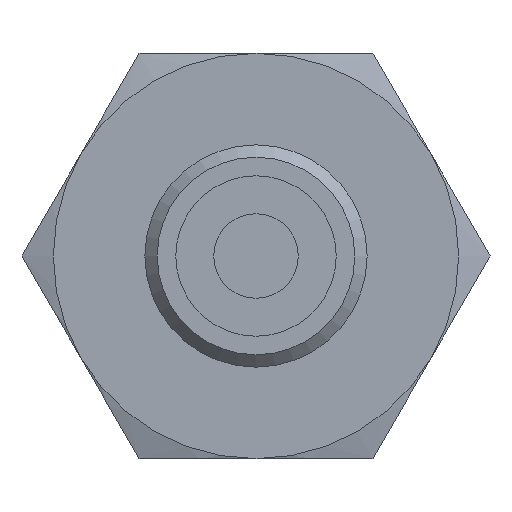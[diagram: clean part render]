
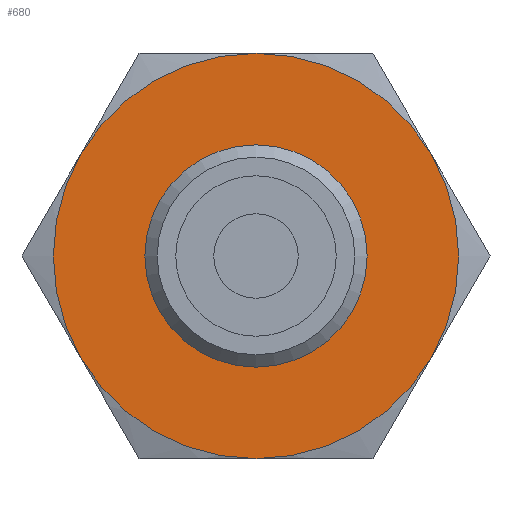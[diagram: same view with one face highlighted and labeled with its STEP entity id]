
A CAD part, left-side view. The second image highlights one B-rep face of the part: STEP entity #680.
In plain terms, the highlighted planar face has unit normal (-1, 0, 0).
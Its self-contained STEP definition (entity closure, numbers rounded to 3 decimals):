
#62=FACE_BOUND('',#184,.T.);
#135=FACE_OUTER_BOUND('',#183,.T.);
#183=EDGE_LOOP('',(#499,#500,#501,#502,#503,#504));
#184=EDGE_LOOP('',(#505));
#248=CIRCLE('',#782,6.4);
#249=CIRCLE('',#784,12.);
#250=CIRCLE('',#785,12.);
#251=CIRCLE('',#786,12.);
#252=CIRCLE('',#787,12.);
#253=CIRCLE('',#788,12.);
#254=CIRCLE('',#789,12.);
#293=VERTEX_POINT('',#1131);
#294=VERTEX_POINT('',#1135);
#295=VERTEX_POINT('',#1136);
#296=VERTEX_POINT('',#1138);
#297=VERTEX_POINT('',#1140);
#298=VERTEX_POINT('',#1142);
#299=VERTEX_POINT('',#1144);
#365=EDGE_CURVE('',#293,#293,#248,.T.);
#366=EDGE_CURVE('',#294,#295,#249,.T.);
#367=EDGE_CURVE('',#295,#296,#250,.T.);
#368=EDGE_CURVE('',#296,#297,#251,.T.);
#369=EDGE_CURVE('',#297,#298,#252,.T.);
#370=EDGE_CURVE('',#298,#299,#253,.T.);
#371=EDGE_CURVE('',#299,#294,#254,.T.);
#499=ORIENTED_EDGE('',*,*,#366,.T.);
#500=ORIENTED_EDGE('',*,*,#367,.T.);
#501=ORIENTED_EDGE('',*,*,#368,.T.);
#502=ORIENTED_EDGE('',*,*,#369,.T.);
#503=ORIENTED_EDGE('',*,*,#370,.T.);
#504=ORIENTED_EDGE('',*,*,#371,.T.);
#505=ORIENTED_EDGE('',*,*,#365,.F.);
#605=PLANE('',#783);
#680=ADVANCED_FACE('',(#135,#62),#605,.T.);
#782=AXIS2_PLACEMENT_3D('',#1133,#946,#947);
#783=AXIS2_PLACEMENT_3D('',#1134,#948,#949);
#784=AXIS2_PLACEMENT_3D('',#1137,#950,#951);
#785=AXIS2_PLACEMENT_3D('',#1139,#952,#953);
#786=AXIS2_PLACEMENT_3D('',#1141,#954,#955);
#787=AXIS2_PLACEMENT_3D('',#1143,#956,#957);
#788=AXIS2_PLACEMENT_3D('',#1145,#958,#959);
#789=AXIS2_PLACEMENT_3D('',#1146,#960,#961);
#946=DIRECTION('center_axis',(-1.,0.,0.));
#947=DIRECTION('ref_axis',(0.,1.,0.));
#948=DIRECTION('center_axis',(-1.,0.,0.));
#949=DIRECTION('ref_axis',(0.,0.,-1.));
#950=DIRECTION('center_axis',(-1.,0.,0.));
#951=DIRECTION('ref_axis',(0.,-1.,0.));
#952=DIRECTION('center_axis',(-1.,0.,0.));
#953=DIRECTION('ref_axis',(0.,-1.,0.));
#954=DIRECTION('center_axis',(-1.,0.,0.));
#955=DIRECTION('ref_axis',(0.,-1.,0.));
#956=DIRECTION('center_axis',(-1.,0.,0.));
#957=DIRECTION('ref_axis',(0.,-1.,0.));
#958=DIRECTION('center_axis',(-1.,0.,0.));
#959=DIRECTION('ref_axis',(0.,-1.,0.));
#960=DIRECTION('center_axis',(-1.,0.,0.));
#961=DIRECTION('ref_axis',(0.,-1.,0.));
#1131=CARTESIAN_POINT('',(-11.,0.,-6.4));
#1133=CARTESIAN_POINT('Origin',(-11.,0.,0.));
#1134=CARTESIAN_POINT('Origin',(-11.,0.,0.));
#1135=CARTESIAN_POINT('',(-11.,-10.392,-6.));
#1136=CARTESIAN_POINT('',(-11.,-10.392,6.));
#1137=CARTESIAN_POINT('Origin',(-11.,0.,0.));
#1138=CARTESIAN_POINT('',(-11.,0.,12.));
#1139=CARTESIAN_POINT('Origin',(-11.,0.,0.));
#1140=CARTESIAN_POINT('',(-11.,10.392,6.));
#1141=CARTESIAN_POINT('Origin',(-11.,0.,0.));
#1142=CARTESIAN_POINT('',(-11.,10.392,-6.));
#1143=CARTESIAN_POINT('Origin',(-11.,0.,0.));
#1144=CARTESIAN_POINT('',(-11.,0.,-12.));
#1145=CARTESIAN_POINT('Origin',(-11.,0.,0.));
#1146=CARTESIAN_POINT('Origin',(-11.,0.,0.));
